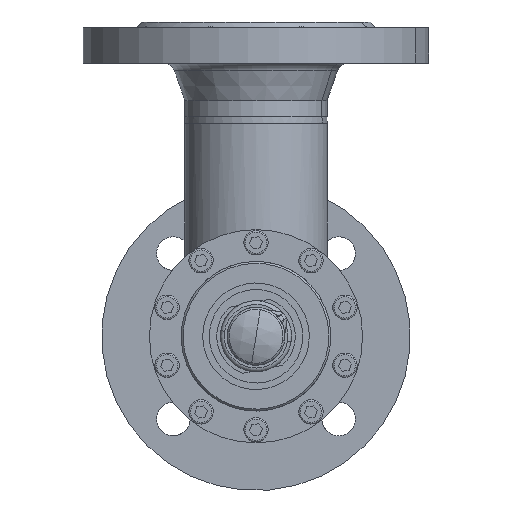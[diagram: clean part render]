
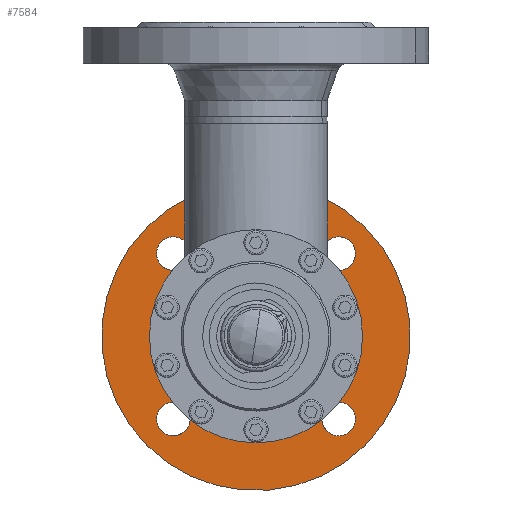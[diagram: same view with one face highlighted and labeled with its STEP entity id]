
A CAD part, front view. The second image highlights one B-rep face of the part: STEP entity #7584.
In plain terms, the highlighted planar face has unit normal (0, -1, 0) as drawn and (0, 1, 0) by its records, which use the part's own axes.
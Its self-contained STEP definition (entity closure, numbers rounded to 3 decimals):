
#113 = VERTEX_POINT ( 'NONE', #16234 ) ;
#184 = VERTEX_POINT ( 'NONE', #16279 ) ;
#16577 = CIRCLE ( 'NONE', #16578, 82.5 ) ;
#16578 = AXIS2_PLACEMENT_3D ( 'NONE', #16579, #16580, #16581 ) ;
#16579 = CARTESIAN_POINT ( 'NONE',  ( 0., 20., 0. ) ) ;
#16580 = DIRECTION ( 'NONE',  ( 0., 1., 0. ) ) ;
#16581 = DIRECTION ( 'NONE',  ( -1., 0., 0. ) ) ;
#1168 = CIRCLE ( 'NONE', #1169, 41.687 ) ;
#1169 = AXIS2_PLACEMENT_3D ( 'NONE', #1170, #1171, #1172 ) ;
#1170 = CARTESIAN_POINT ( 'NONE',  ( 0., 20., 0. ) ) ;
#1171 = DIRECTION ( 'NONE',  ( 0., 1., 0. ) ) ;
#1172 = DIRECTION ( 'NONE',  ( -1., 0., 0. ) ) ;
#1432 = CARTESIAN_POINT ( 'NONE',  ( -41.687, 20., 0. ) ) ;
#1471 = CARTESIAN_POINT ( 'NONE',  ( -9., 20., 62.5 ) ) ;
#19441 = EDGE_CURVE ( 'NONE', #22562, #20337, #16577, .T. ) ;
#20185 = ORIENTED_EDGE ( 'NONE', *, *, #19441, .T. ) ;
#20337 = VERTEX_POINT ( 'NONE', #22930 ) ;
#4283 = CIRCLE ( 'NONE', #4284, 41.687 ) ;
#4284 = AXIS2_PLACEMENT_3D ( 'NONE', #4303, #4304, #4305 ) ;
#4303 = CARTESIAN_POINT ( 'NONE',  ( 0., 20., 0. ) ) ;
#4304 = DIRECTION ( 'NONE',  ( 0., 1., 0. ) ) ;
#4305 = DIRECTION ( 'NONE',  ( -1., 0., 0. ) ) ;
#4348 = CIRCLE ( 'NONE', #4349, 9. ) ;
#4349 = AXIS2_PLACEMENT_3D ( 'NONE', #4350, #4351, #4352 ) ;
#4350 = CARTESIAN_POINT ( 'NONE',  ( 0., 20., 62.5 ) ) ;
#4351 = DIRECTION ( 'NONE',  ( 0., 1., 0. ) ) ;
#4352 = DIRECTION ( 'NONE',  ( 0., 0., -1. ) ) ;
#20788 = EDGE_CURVE ( 'NONE', #20337, #22562, #23509, .T. ) ;
#21231 = ORIENTED_EDGE ( 'NONE', *, *, #20788, .T. ) ;
#4872 = ORIENTED_EDGE ( 'NONE', *, *, #14824, .F. ) ;
#21826 = VERTEX_POINT ( 'NONE', #24261 ) ;
#22266 = EDGE_CURVE ( 'NONE', #24051, #21826, #24622, .T. ) ;
#22267 = EDGE_LOOP ( 'NONE', ( #21231, #20185 ) ) ;
#5912 = EDGE_CURVE ( 'NONE', #14576, #15847, #24573, .T. ) ;
#6152 = CIRCLE ( 'NONE', #6153, 9. ) ;
#6153 = AXIS2_PLACEMENT_3D ( 'NONE', #6154, #6155, #6156 ) ;
#6154 = CARTESIAN_POINT ( 'NONE',  ( 62.5, 20., 0. ) ) ;
#6155 = DIRECTION ( 'NONE',  ( 0., 1., 0. ) ) ;
#6156 = DIRECTION ( 'NONE',  ( -1., 0., 0. ) ) ;
#22562 = VERTEX_POINT ( 'NONE', #25077 ) ;
#22751 = ORIENTED_EDGE ( 'NONE', *, *, #29203, .F. ) ;
#22930 = CARTESIAN_POINT ( 'NONE',  ( -82.5, 20., 0. ) ) ;
#6661 = ORIENTED_EDGE ( 'NONE', *, *, #5912, .F. ) ;
#23509 = CIRCLE ( 'NONE', #23510, 82.5 ) ;
#23510 = AXIS2_PLACEMENT_3D ( 'NONE', #23511, #23512, #23513 ) ;
#23511 = CARTESIAN_POINT ( 'NONE',  ( 0., 20., 0. ) ) ;
#23512 = DIRECTION ( 'NONE',  ( 0., 1., 0. ) ) ;
#23513 = DIRECTION ( 'NONE',  ( -1., 0., 0. ) ) ;
#7297 = EDGE_LOOP ( 'NONE', ( #6661, #4872 ) ) ;
#23793 = ORIENTED_EDGE ( 'NONE', *, *, #8027, .F. ) ;
#7584 = ADVANCED_FACE ( 'NONE', ( #29878, #29879, #29880, #29881, #29882, #29883 ), #29884, .F. ) ;
#24051 = VERTEX_POINT ( 'NONE', #26842 ) ;
#24261 = CARTESIAN_POINT ( 'NONE',  ( -71.5, 20., 0. ) ) ;
#8027 = EDGE_CURVE ( 'NONE', #28756, #113, #1168, .T. ) ;
#24573 = CIRCLE ( 'NONE', #24574, 9. ) ;
#24574 = AXIS2_PLACEMENT_3D ( 'NONE', #24595, #24596, #24597 ) ;
#24595 = CARTESIAN_POINT ( 'NONE',  ( 0., 20., -62.5 ) ) ;
#24596 = DIRECTION ( 'NONE',  ( 0., 1., 0. ) ) ;
#24597 = DIRECTION ( 'NONE',  ( 0., 0., 1. ) ) ;
#24622 = CIRCLE ( 'NONE', #24623, 9. ) ;
#24623 = AXIS2_PLACEMENT_3D ( 'NONE', #24624, #24625, #24626 ) ;
#24624 = CARTESIAN_POINT ( 'NONE',  ( -62.5, 20., 0. ) ) ;
#24625 = DIRECTION ( 'NONE',  ( 0., 1., 0. ) ) ;
#24626 = DIRECTION ( 'NONE',  ( 1., 0., 0. ) ) ;
#24821 = EDGE_LOOP ( 'NONE', ( #23793, #22751 ) ) ;
#25077 = CARTESIAN_POINT ( 'NONE',  ( 82.5, 20., 0. ) ) ;
#8795 = CIRCLE ( 'NONE', #8803, 9. ) ;
#8803 = AXIS2_PLACEMENT_3D ( 'NONE', #8804, #8805, #8806 ) ;
#8804 = CARTESIAN_POINT ( 'NONE',  ( 0., 20., 62.5 ) ) ;
#8805 = DIRECTION ( 'NONE',  ( 0., 1., 0. ) ) ;
#8806 = DIRECTION ( 'NONE',  ( 0., 0., -1. ) ) ;
#25304 = ORIENTED_EDGE ( 'NONE', *, *, #15056, .F. ) ;
#26842 = CARTESIAN_POINT ( 'NONE',  ( -53.5, 20., 0. ) ) ;
#11176 = EDGE_CURVE ( 'NONE', #14802, #16075, #6152, .T. ) ;
#11596 = ORIENTED_EDGE ( 'NONE', *, *, #11176, .F. ) ;
#12125 = CARTESIAN_POINT ( 'NONE',  ( -9., 20., -62.5 ) ) ;
#12191 = EDGE_LOOP ( 'NONE', ( #11596, #25304 ) ) ;
#12376 = CARTESIAN_POINT ( 'NONE',  ( 53.5, 20., 0. ) ) ;
#28756 = VERTEX_POINT ( 'NONE', #1432 ) ;
#12392 = CIRCLE ( 'NONE', #12393, 9. ) ;
#12393 = AXIS2_PLACEMENT_3D ( 'NONE', #12394, #12395, #12396 ) ;
#12394 = CARTESIAN_POINT ( 'NONE',  ( 0., 20., -62.5 ) ) ;
#12395 = DIRECTION ( 'NONE',  ( 0., 1., 0. ) ) ;
#12396 = DIRECTION ( 'NONE',  ( 0., 0., 1. ) ) ;
#28830 = VERTEX_POINT ( 'NONE', #1471 ) ;
#12462 = CIRCLE ( 'NONE', #12463, 9. ) ;
#12463 = AXIS2_PLACEMENT_3D ( 'NONE', #12464, #12465, #12466 ) ;
#12464 = CARTESIAN_POINT ( 'NONE',  ( -62.5, 20., 0. ) ) ;
#12465 = DIRECTION ( 'NONE',  ( 0., 1., 0. ) ) ;
#12466 = DIRECTION ( 'NONE',  ( 1., 0., 0. ) ) ;
#12474 = ORIENTED_EDGE ( 'NONE', *, *, #29279, .F. ) ;
#29203 = EDGE_CURVE ( 'NONE', #113, #28756, #4283, .T. ) ;
#12842 = CIRCLE ( 'NONE', #12843, 9. ) ;
#12843 = AXIS2_PLACEMENT_3D ( 'NONE', #12844, #12845, #12846 ) ;
#12844 = CARTESIAN_POINT ( 'NONE',  ( 62.5, 20., 0. ) ) ;
#12845 = DIRECTION ( 'NONE',  ( 0., 1., 0. ) ) ;
#12846 = DIRECTION ( 'NONE',  ( -1., 0., 0. ) ) ;
#29279 = EDGE_CURVE ( 'NONE', #184, #28830, #4348, .T. ) ;
#13055 = EDGE_CURVE ( 'NONE', #28830, #184, #8795, .T. ) ;
#13475 = ORIENTED_EDGE ( 'NONE', *, *, #13055, .F. ) ;
#29878 = FACE_BOUND ( 'NONE', #7297, .T. ) ;
#29879 = FACE_BOUND ( 'NONE', #16132, .T. ) ;
#29880 = FACE_BOUND ( 'NONE', #14071, .T. ) ;
#29881 = FACE_BOUND ( 'NONE', #12191, .T. ) ;
#29882 = FACE_BOUND ( 'NONE', #24821, .T. ) ;
#29883 = FACE_OUTER_BOUND ( 'NONE', #22267, .T. ) ;
#29884 = PLANE ( 'NONE',  #29904 ) ;
#29904 = AXIS2_PLACEMENT_3D ( 'NONE', #29905, #29906, #29907 ) ;
#29905 = CARTESIAN_POINT ( 'NONE',  ( 82.5, 20., 0. ) ) ;
#29906 = DIRECTION ( 'NONE',  ( 0., -1., 0. ) ) ;
#29907 = DIRECTION ( 'NONE',  ( 1., 0., 0. ) ) ;
#13558 = CARTESIAN_POINT ( 'NONE',  ( 9., 20., -62.5 ) ) ;
#14071 = EDGE_LOOP ( 'NONE', ( #13475, #12474 ) ) ;
#14335 = CARTESIAN_POINT ( 'NONE',  ( 71.5, 20., 0. ) ) ;
#14343 = ORIENTED_EDGE ( 'NONE', *, *, #22266, .F. ) ;
#14576 = VERTEX_POINT ( 'NONE', #12125 ) ;
#14802 = VERTEX_POINT ( 'NONE', #12376 ) ;
#14824 = EDGE_CURVE ( 'NONE', #15847, #14576, #12392, .T. ) ;
#14923 = EDGE_CURVE ( 'NONE', #21826, #24051, #12462, .T. ) ;
#15056 = EDGE_CURVE ( 'NONE', #16075, #14802, #12842, .T. ) ;
#15359 = ORIENTED_EDGE ( 'NONE', *, *, #14923, .F. ) ;
#15847 = VERTEX_POINT ( 'NONE', #13558 ) ;
#16075 = VERTEX_POINT ( 'NONE', #14335 ) ;
#16132 = EDGE_LOOP ( 'NONE', ( #15359, #14343 ) ) ;
#16234 = CARTESIAN_POINT ( 'NONE',  ( 41.687, 20., 0. ) ) ;
#16279 = CARTESIAN_POINT ( 'NONE',  ( 9., 20., 62.5 ) ) ;
